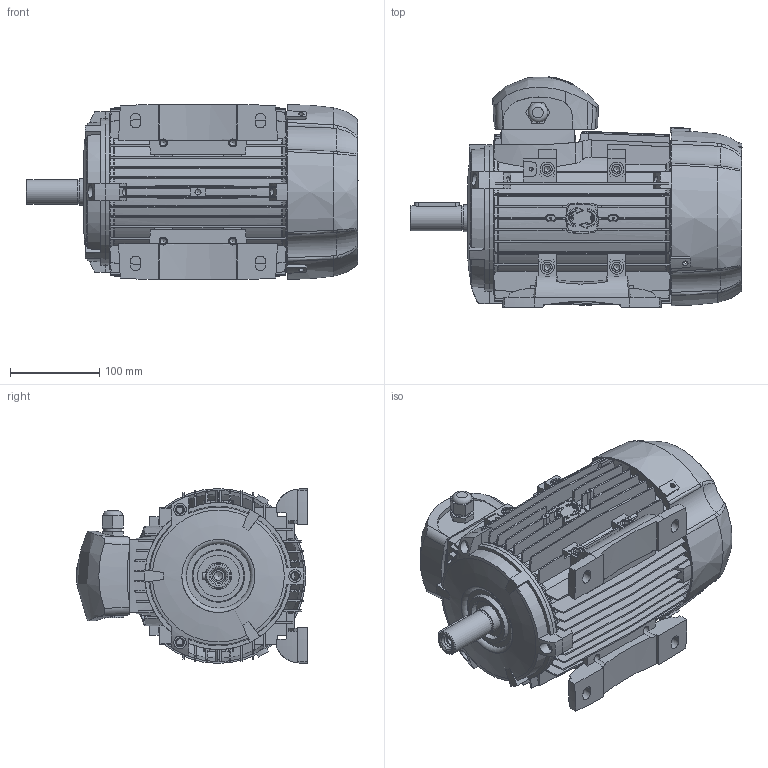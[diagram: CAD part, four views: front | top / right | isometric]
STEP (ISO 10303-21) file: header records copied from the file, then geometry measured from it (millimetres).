
FILE_DESCRIPTION((''),'2;1');
FILE_NAME('C:\xampp\htdocs\motive\source_step\M100.stp','2019-06-21T17:49:42',('apache'),(''),'Autodesk Inventor 2013','Autodesk Inventor 2013','');
FILE_SCHEMA(('AUTOMOTIVE_DESIGN { 1 0 10303 214 1 1 1 1 }'));
Length unit declared in the file: millimetre
Products named in the file (7): M100; BODY100; B3100; SH100; FEET100_1; TBOX90_100; FCV100
Assembly tree (7 placements, depth 2):
  M100
    BODY100
    B3100
    SH100
    FEET100_1  x2
    TBOX90_100
    FCV100
Bounding box: 372.55 x 259.15 x 196.16 mm (x, y, z)
Volume: 5776039.5 mm3; surface area: 745730.3 mm2
Topology: 7 solids, 7 shells, 2361 faces, 6561 edges, 4343 vertices
Faces by surface type: plane 943, bspline 595, cylinder 461, torus 183, cone 179
Full cylindrical faces by diameter (mm): 2.5 x4, 4.2 x11, 5 x4, 5.4 x3, 6 x3, 6.8 x13, 8 x6, 9 x4, 10 x4, 11 x12, 13.8 x1, 14 x3, 20 x1, 25 x1, 27 x1, 28 x1, 30 x2, 47 x1, 52 x1, 62 x2, 65 x1, 82 x1, 156 x1
Entity records: 104433 total; most frequent: CARTESIAN_POINT 49470, ORIENTED_EDGE 12450, DIRECTION 9785, EDGE_CURVE 6225, VERTEX_POINT 4184, AXIS2_PLACEMENT_3D 3634, EDGE_LOOP 2587, VECTOR 2517
